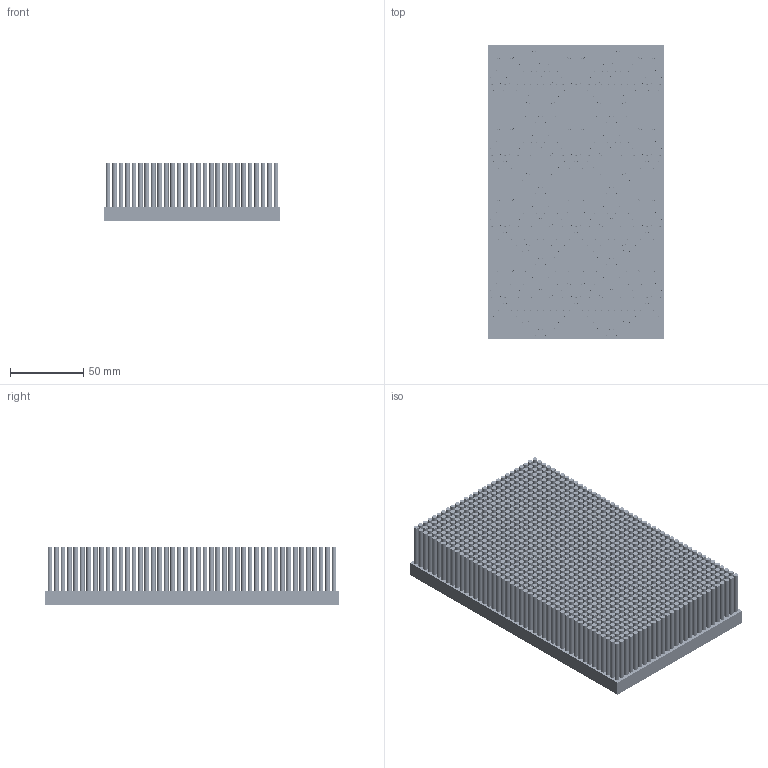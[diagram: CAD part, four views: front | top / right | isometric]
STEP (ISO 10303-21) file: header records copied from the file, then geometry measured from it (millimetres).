
FILE_DESCRIPTION(/* description */ (''),/* implementation_level */ '2;1');
FILE_NAME(/* name */ 'PB200120-1215.stp',/* time_stamp */ '2013-08-21T09:09:34+08:00',/* author */ (''),/* organization */ (''),/* preprocessor_version */ 'ST-DEVELOPER v14',/* originating_system */ 'SIEMENS PLM Software NX 8.0',/* authorisation */ '');
FILE_SCHEMA (('CONFIG_CONTROL_DESIGN'));
Length unit declared in the file: millimetre
Products named in the file (1): PB200120-1215
Bounding box: 120 x 200 x 40 mm (x, y, z)
Volume: 533148.3 mm3; surface area: 420835.4 mm2
Topology: 1 solids, 1 shells, 2436 faces, 3657 edges, 2438 vertices
Faces by surface type: plane 1221, cylinder 1215
Full cylindrical faces by diameter (mm): 3.2 x1215
Entity records: 48840 total; most frequent: DIRECTION 9746, CARTESIAN_POINT 7317, ORIENTED_EDGE 4884, AXIS2_PLACEMENT_3D 4867, EDGE_LOOP 4866, FACE_BOUND 3646, EDGE_CURVE 2442, VERTEX_POINT 2438
